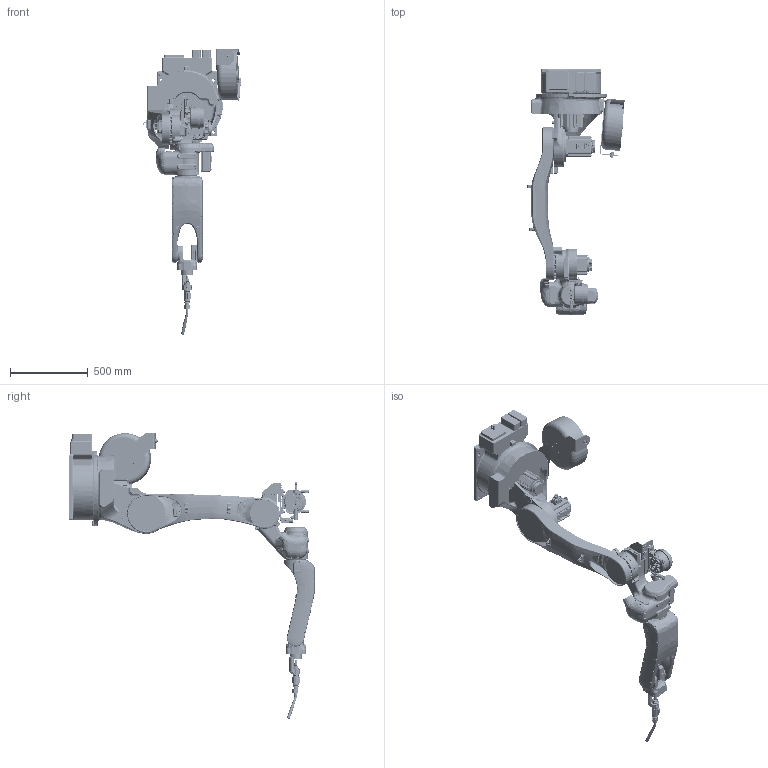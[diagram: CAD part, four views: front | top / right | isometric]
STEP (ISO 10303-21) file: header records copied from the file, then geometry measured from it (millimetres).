
FILE_DESCRIPTION (( 'STEP AP214' ), '1' );
FILE_NAME ('RH18-20 爾諉唳E(俋楷).STEP', '2021-03-25T11:44:50', ( '' ), ( '' ), 'SwSTEP 2.0', 'SolidWorks 2016', '' );
FILE_SCHEMA (( 'AUTOMOTIVE_DESIGN' ));
Length unit declared in the file: millimetre
Products named in the file (10): CR1800 shell 苤旋; RH18-20 爾諉唳E(俋楷); 笢諾350ァ濮爾Л; CR140600E 勂窒郪璃 shell; CR1800 shell 菁釱; CR1800 shell 湮旋; CR1400 shell  焊丝盘组件全; CR1800 shell 紵窒; CR1800 shell 殈窒 ; CR1800 shell  冞佪儂郪璃
Assembly tree (9 placements, depth 2):
  RH18-20 爾諉唳E(俋楷)
    CR1800 shell 殈窒 
    CR1800 shell 菁釱
    CR1800 shell 湮旋
    CR1800 shell 紵窒
    CR1800 shell 苤旋
    CR1400 shell  焊丝盘组件全
    CR1800 shell  冞佪儂郪璃
    笢諾350ァ濮爾Л
    CR140600E 勂窒郪璃 shell
Bounding box: 626.68 x 1585 x 1839.86 mm (x, y, z)
Surface area: 5131155.8 mm2 (no closed solid volume)
Topology: 0 solids, 334 shells, 6914 faces, 21631 edges, 14456 vertices
Faces by surface type: cylinder 2461, plane 1916, bspline 1395, cone 564, torus 505, sphere 73
Entity records: 384448 total; most frequent: CARTESIAN_POINT 185901, ORIENTED_EDGE 36236, DIRECTION 34989, EDGE_CURVE 21423, VERTEX_POINT 14436, AXIS2_PLACEMENT_3D 13416, VECTOR 8157, LINE 8157
